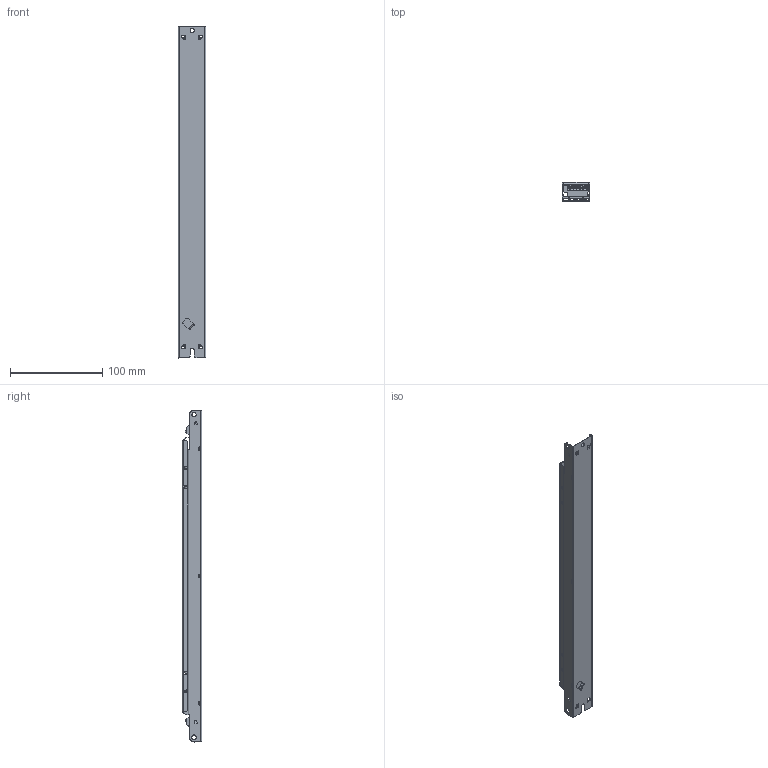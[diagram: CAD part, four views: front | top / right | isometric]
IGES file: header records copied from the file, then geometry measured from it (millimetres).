
Start section: SolidWorks IGES file using analytic representation for surfaces
Global section: file name: C:\Users\vuorinen_kari\Desktop\prj\LL1x80 selv\LL1x80.IGS; native system: SolidWorks 2014; preprocessor: SolidWorks 2014; author: vuorinen_kari; date: 170203.094902; units: millimetre
Bounding box: 30 x 21 x 360 mm (x, y, z)
Surface area: 95803.2 mm2 (no closed solid volume)
Topology: 0 solids, 0 shells, 1308 faces, 9426 edges, 9422 vertices
Faces by surface type: bspline 872, revolution 436
